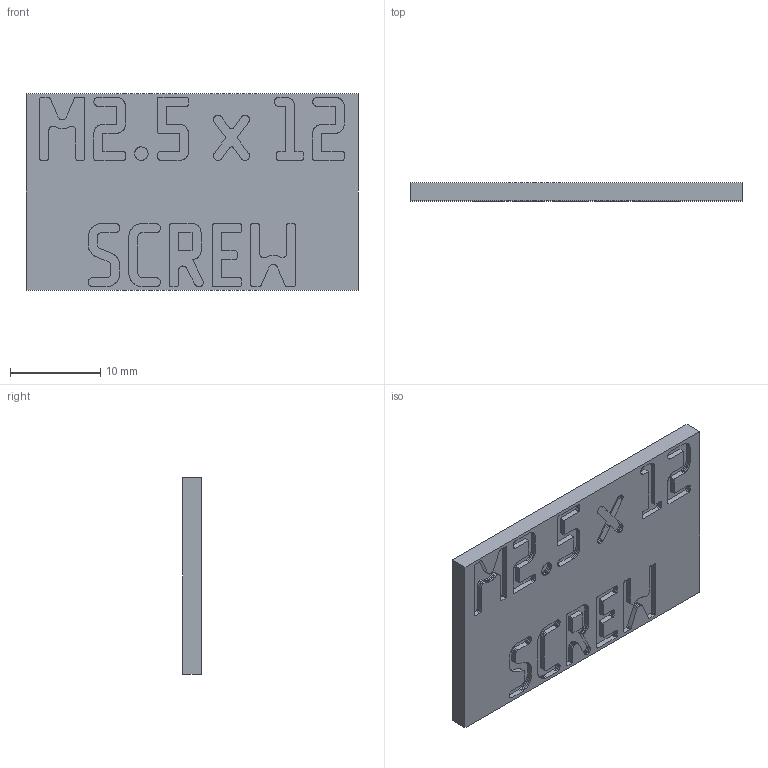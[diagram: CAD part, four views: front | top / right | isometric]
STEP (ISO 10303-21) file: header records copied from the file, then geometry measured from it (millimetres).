
FILE_DESCRIPTION(('Open CASCADE Model'),'2;1');
FILE_NAME('Open CASCADE Shape Model','2026-11-03T17:09:55',('Author'),( 'Open CASCADE'),'Open CASCADE STEP processor 8.0','build123d', 'Unknown');
FILE_SCHEMA(('AUTOMOTIVE_DESIGN { 1 0 10303 214 1 1 1 1 }'));
Length unit declared in the file: millimetre
Products named in the file (2): =>[0:1:1:2]; COMPOUND
Assembly tree (1 placements, depth 2):
  =>[0:1:1:2]
    COMPOUND
Bounding box: 36.8 x 2 x 21.8 mm (x, y, z)
Volume: 1510.6 mm3; surface area: 2025.5 mm2
Topology: 1 solids, 1 shells, 1276 faces, 3783 edges, 2522 vertices
Faces by surface type: plane 1276
Entity records: 90974 total; most frequent: CARTESIAN_POINT 15149, DIRECTION 13905, LINE 11349, VECTOR 11349, ORIENTED_EDGE 7566, PCURVE 7566, DEFINITIONAL_REPRESENTATION 7566, EDGE_CURVE 3783
